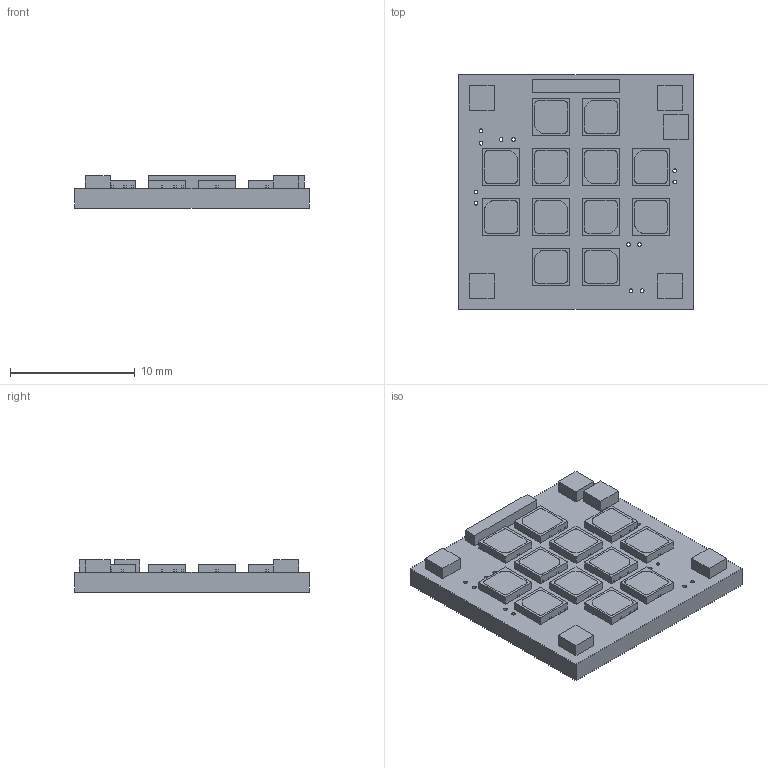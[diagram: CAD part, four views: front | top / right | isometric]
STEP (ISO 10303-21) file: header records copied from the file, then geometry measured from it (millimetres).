
FILE_DESCRIPTION((''),'2;1');
FILE_NAME('V19L19DA4_06072021_10-41-42_ASM','2021-06-07T',('SYSTEM'),(''),'PRO/ENGINEER BY PARAMETRIC TECHNOLOGY CORPORATION, 2009360','PRO/ENGINEER BY PARAMETRIC TECHNOLOGY CORPORATION, 2009360','');
FILE_SCHEMA(('AUTOMOTIVE_DESIGN_CC2 { 1 2 10303 214 -1 1 5 2 }'));
Products named in the file (6): V19L19DA4_06072021_10-41-42; 3030_S_LES; ARKALUMEN_LOGO_7MM; FIDUCIAL_R0_5MM; SOLDERPADS2_25; V19L19DA4_06072021_10-41-42_ASM
Assembly tree (19 placements, depth 2):
  V19L19DA4_06072021_10-41-42_ASM
    V19L19DA4_06072021_10-41-42
    3030_S_LES  x12
    ARKALUMEN_LOGO_7MM
    FIDUCIAL_R0_5MM
    SOLDERPADS2_25  x4
Bounding box: 18.8 x 18.8 x 2.6 mm (x, y, z)
Volume: 663 mm3; surface area: 1266 mm2
Topology: 19 solids, 19 shells, 270 faces, 996 edges, 896 vertices
Faces by surface type: plane 246, cylinder 24
Entity records: 3111 total; most frequent: CARTESIAN_POINT 516, DIRECTION 405, ORIENTED_EDGE 380, EDGE_CURVE 190, VERTEX_POINT 146, PRESENTATION_STYLE_ASSIGNMENT 141, STYLED_ITEM 141, AXIS2_PLACEMENT_3D 138
